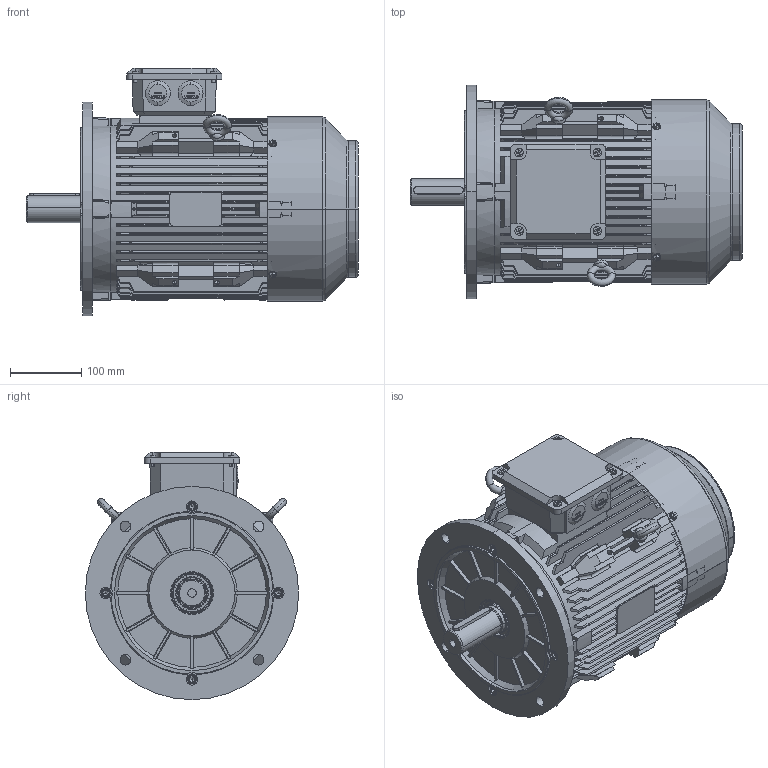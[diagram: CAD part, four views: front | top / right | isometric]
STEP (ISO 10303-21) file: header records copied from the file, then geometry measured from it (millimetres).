
FILE_DESCRIPTION (( 'STEP AP214' ), '1' );
FILE_NAME ('BCT4220.13A805.11.STEP', '2020-04-23T15:59:20', ( '' ), ( '' ), 'SwSTEP 2.0', 'SolidWorks 2019', '' );
FILE_SCHEMA (( 'AUTOMOTIVE_DESIGN' ));
Length unit declared in the file: millimetre
Products named in the file (1): BCT4220.13A805.11
Bounding box: 467 x 300 x 348 mm (x, y, z)
Volume: 4586182 mm3; surface area: 1639668.1 mm2
Topology: 33 solids, 33 shells, 4005 faces, 11023 edges, 7185 vertices
Faces by surface type: plane 1933, cylinder 1477, cone 336, bspline 141, torus 118
Entity records: 151479 total; most frequent: CARTESIAN_POINT 49798, ORIENTED_EDGE 21938, DIRECTION 20113, EDGE_CURVE 10969, VERTEX_POINT 7188, AXIS2_PLACEMENT_3D 6916, LINE 6281, VECTOR 6281
